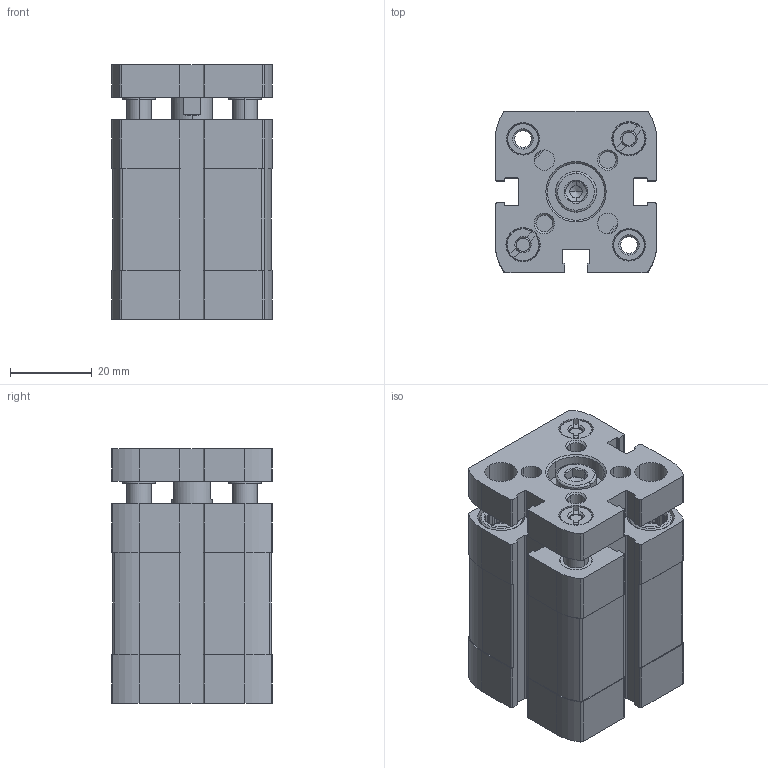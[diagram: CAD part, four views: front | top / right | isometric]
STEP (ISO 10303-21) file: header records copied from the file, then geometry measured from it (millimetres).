
FILE_DESCRIPTION (( 'STEP AP203' ), '1' );
FILE_NAME ('CCNG25-10.STEP', '2017-04-13T18:21:28', ( '' ), ( '' ), 'SwSTEP 2.0', 'SolidWorks 2016', '' );
FILE_SCHEMA (( 'CONFIG_CONTROL_DESIGN' ));
Length unit declared in the file: millimetre
Products named in the file (3): CCNG-25-10---(KS); CCNG25-10; CCNG-25-10---(Z)
Assembly tree (2 placements, depth 2):
  CCNG25-10
    CCNG-25-10---(Z)
    CCNG-25-10---(KS)
Bounding box: 39.5 x 39.5 x 62.5 mm (x, y, z)
Volume: 71145.6 mm3; surface area: 30084.8 mm2
Topology: 2 solids, 6 shells, 598 faces, 1579 edges, 1029 vertices
Faces by surface type: plane 301, cylinder 214, cone 77, bspline 6
Entity records: 19210 total; most frequent: CARTESIAN_POINT 3744, DIRECTION 3271, ORIENTED_EDGE 3154, EDGE_CURVE 1577, AXIS2_PLACEMENT_3D 1230, VERTEX_POINT 1029, LINE 811, VECTOR 811
